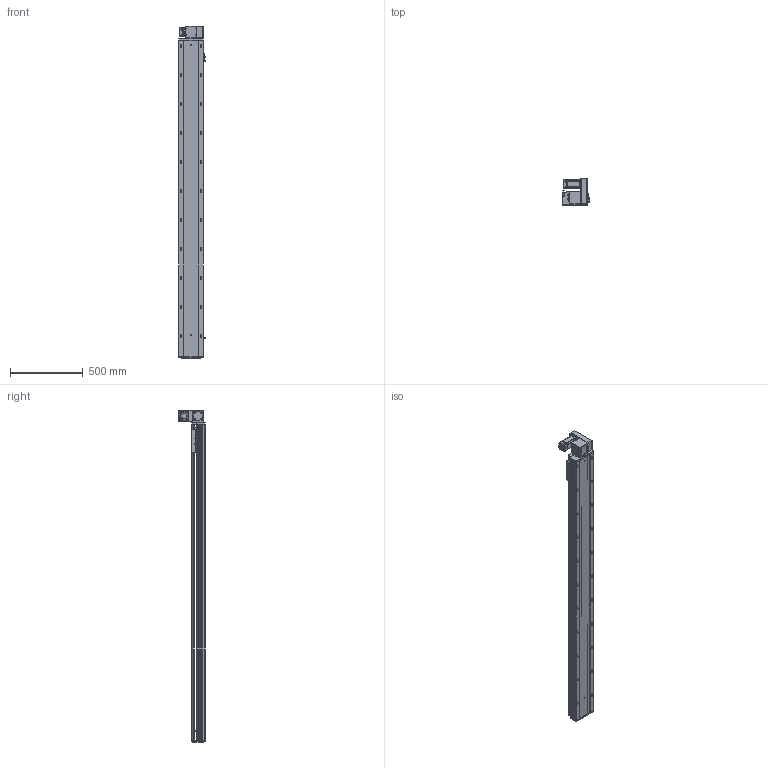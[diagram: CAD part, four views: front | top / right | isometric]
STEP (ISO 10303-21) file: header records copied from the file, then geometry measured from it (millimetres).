
FILE_DESCRIPTION (( 'STEP AP203' ), '1' );
FILE_NAME ('RY170-T-300-UR-P400W.SLDASM_1900.step', '2021-03-01T09:28:56', ( '盈信电脑' ), ( '东莞市道滘镇水果街19号' ), 'SwSTEP 2.0', 'SolidWorks 2012', '' );
FILE_SCHEMA (( 'CONFIG_CONTROL_DESIGN' ));
Length unit declared in the file: millimetre
Products named in the file (18): RY170-T-300-UR-P400W.SLDASM_1900; 滅袉蝶18-10; 15; RY170-T肮祭謫裔啣; RY120-T主同步轮轴承压盖; RY170-T蹟翐M4; RY170肮祭謫萇儂欶; RY170-T肮祭湍揤踡輸1; RY170-T肮祭湍揤踡輸2; RY170同步轮电机安装板(400W); RY170外置感应片(200共用）; 覜茼ん672; RY170肮祭謫ヶ裔啣; RY170翋肮祭謫釱; RY170-T-300肮祭謫倰第菁釱-DR_1900; RY170-T-300肮祭謫倰第裔啣-DR_1900; RY170綴裔啣; RY170肮祭湍臏賑輸
Assembly tree (22 placements, depth 2):
  RY170-T-300-UR-P400W.SLDASM_1900
    RY170-T-300肮祭謫倰第菁釱-DR_1900
    RY170肮祭湍臏賑輸
    RY170-T-300肮祭謫倰第裔啣-DR_1900
    RY170綴裔啣
    覜茼ん672  x3
    RY170外置感应片(200共用）
    RY170肮祭謫ヶ裔啣
    RY170翋肮祭謫釱
    RY170同步轮电机安装板(400W)
    RY170肮祭謫萇儂欶
    RY170-T肮祭湍揤踡輸1  x2
    RY170-T肮祭湍揤踡輸2  x2
    RY120-T主同步轮轴承压盖
    RY170-T肮祭謫裔啣
    RY170-T蹟翐M4
    滅袉蝶18-10  x2
    15
Bounding box: 183.7 x 182 x 2288 mm (x, y, z)
Volume: 10671502.4 mm3; surface area: 3672757 mm2
Topology: 22 solids, 22 shells, 2976 faces, 8326 edges, 5309 vertices
Faces by surface type: cylinder 1378, plane 1268, cone 300, bspline 30
Entity records: 90160 total; most frequent: CARTESIAN_POINT 20732, ORIENTED_EDGE 14232, DIRECTION 13906, EDGE_CURVE 7116, AXIS2_PLACEMENT_3D 4933, VERTEX_POINT 4665, VECTOR 4040, LINE 4040
